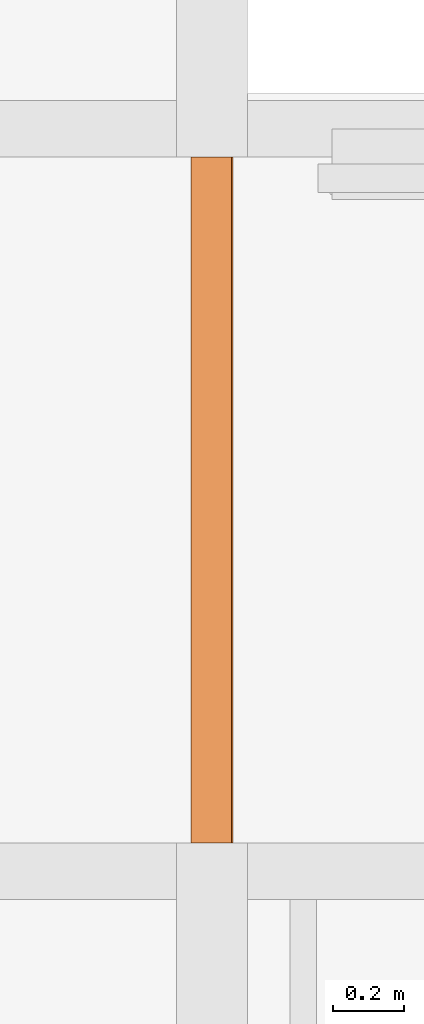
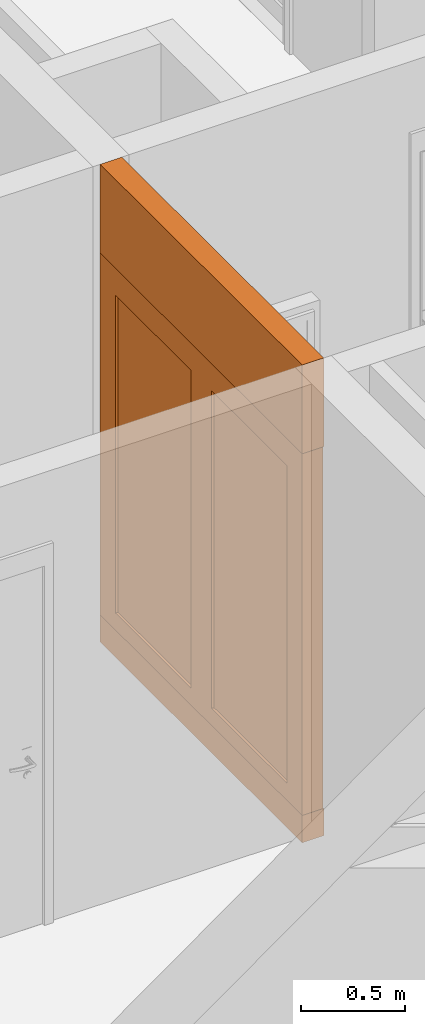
# One storey, part 21 of 66: 2 proxies, 1 opening.
"""IFC2X3 building model written with IfcOpenShell, lengths in millimetres."""

import ifcopenshell
import ifcopenshell.guid

model = None  # the IFC model being written
_history = None  # IfcOwnerHistory: only IFC2X3 demands one
_inside = {}  # id of a spatial element -> (the spatial element, [elements in it])
_under = {}  # id of a project, library or spatial element -> (it, [spatial elements below it])
_declared = {}  # id of a project -> (the project, [libraries it declares])
_typed = {}  # id of a type object -> (the type object, [elements of that type])
_made_of = {}  # id of a material, layer set ... -> (it, [elements and type objects made of it])


def new_model(schema):
    """Start an empty IFC model of exactly this schema.

    Asked for "IFC4X3", IfcOpenShell would pick the latest addendum, in which some entities
    have other attributes; the version numbers below select the first issue.
    IFC2X3 requires an IfcOwnerHistory on every rooted entity: one is made here for all.
    """
    global model, _history
    if schema == "IFC4X3":
        model = ifcopenshell.file(schema_version=(4, 3, 0, 0))
    else:
        model = ifcopenshell.file(schema=schema)
    _inside.clear()
    _under.clear()
    _declared.clear()
    _typed.clear()
    _made_of.clear()
    _history = None
    if model.schema == "IFC2X3":
        org = make("IfcOrganization", Name="unknown")
        user = make(
            "IfcPersonAndOrganization",
            ThePerson=make("IfcPerson", FamilyName="unknown"),
            TheOrganization=org,
        )
        app = make(
            "IfcApplication",
            ApplicationDeveloper=org,
            Version="unknown",
            ApplicationFullName="unknown",
            ApplicationIdentifier="unknown",
        )
        _history = make(
            "IfcOwnerHistory",
            OwningUser=user,
            OwningApplication=app,
            ChangeAction="ADDED",
            CreationDate=0,
        )
    return model


def make(cls, **values):
    """One entity of the class cls with the attributes given. An attribute that is None is left unset."""
    return model.create_entity(
        cls, **{name: value for name, value in values.items() if value is not None}
    )


def entity(cls, *values):
    """Any entity or typed value of the class cls, its attributes in the order of the schema. None: left unset."""
    e = model.create_entity(cls)
    for i, value in enumerate(values):
        if value is not None:
            e[i] = value
    return e


def rooted(cls, **values):
    """An entity with a GlobalId (a new one), such as an element, a storey or a relation."""
    return make(cls, GlobalId=ifcopenshell.guid.new(), OwnerHistory=_history, **values)


def si_unit(unit_type, name, prefix=None):
    """IfcSIUnit, for example si_unit("LENGTHUNIT", "METRE", prefix="MILLI")."""
    return make("IfcSIUnit", UnitType=unit_type, Prefix=prefix, Name=name)


def converted_unit(unit_type, name, factor, base, dimensions=None, offset=None):
    """IfcConversionBasedUnit, such as the inch: factor (a typed value) times the base unit."""
    return make(
        "IfcConversionBasedUnit"
        if offset is None
        else "IfcConversionBasedUnitWithOffset",
        ConversionOffset=offset,
        Dimensions=None
        if dimensions is None
        else entity("IfcDimensionalExponents", *dimensions),
        UnitType=unit_type,
        Name=name,
        ConversionFactor=make(
            "IfcMeasureWithUnit", ValueComponent=factor, UnitComponent=base
        ),
    )


def derived_unit(unit_type, elements):
    """IfcDerivedUnit: a product of units, each with its exponent."""
    return make(
        "IfcDerivedUnit",
        Elements=[
            make("IfcDerivedUnitElement", Unit=unit, Exponent=power)
            for unit, power in elements
        ],
        UnitType=unit_type,
    )


def money_unit(currency):
    """IfcMonetaryUnit."""
    return make("IfcMonetaryUnit", Currency=currency)


def assignment(units):
    """IfcUnitAssignment: the units of a project."""
    return None if units is None else make("IfcUnitAssignment", Units=units)


def point(xyz):
    """IfcCartesianPoint."""
    return None if xyz is None else make("IfcCartesianPoint", Coordinates=xyz)


def direction(xyz):
    """IfcDirection."""
    return None if xyz is None else make("IfcDirection", DirectionRatios=xyz)


def frame(location, z_axis=None, x_axis=None):
    """IfcAxis2Placement3D, a coordinate frame: its origin and axes. An axis left out is left unset."""
    return make(
        "IfcAxis2Placement3D",
        Location=point(location),
        Axis=direction(z_axis),
        RefDirection=direction(x_axis),
    )


def frame_2d(location, x_axis=None):
    """IfcAxis2Placement2D, a coordinate frame in the plane: its origin and x axis."""
    return make(
        "IfcAxis2Placement2D", Location=point(location), RefDirection=direction(x_axis)
    )


def origin_with_axes():
    """The frame at (0, 0, 0) with the z axis (0, 0, 1) and the x axis (1, 0, 0) written out."""
    return frame((0.0, 0.0, 0.0), z_axis=(0.0, 0.0, 1.0), x_axis=(1.0, 0.0, 0.0))


def origin_2d_with_axis():
    """The frame at (0, 0) in the plane with the x axis (1, 0) written out."""
    return frame_2d((0.0, 0.0), x_axis=(1.0, 0.0))


def place(relative_to, where):
    """IfcLocalPlacement: puts the frame where relative to a parent placement (None: the world)."""
    return make(
        "IfcLocalPlacement", PlacementRelTo=relative_to, RelativePlacement=where
    )


def context(
    kind, dimensions, precision=None, world=None, true_north=None, identifier=None
):
    """IfcGeometricRepresentationContext, for example the 3D "Model" context."""
    return make(
        "IfcGeometricRepresentationContext",
        ContextIdentifier=identifier,
        ContextType=kind,
        CoordinateSpaceDimension=dimensions,
        Precision=precision,
        WorldCoordinateSystem=world,
        TrueNorth=true_north,
    )


def subcontext(parent, identifier, kind, view, scale=None):
    """IfcGeometricRepresentationSubContext, for example "Body" below "Model"."""
    return make(
        "IfcGeometricRepresentationSubContext",
        ContextIdentifier=identifier,
        ContextType=kind,
        ParentContext=parent,
        TargetScale=scale,
        TargetView=view,
    )


def project(units=None, contexts=None):
    """IfcProject with its units and contexts."""
    return rooted(
        "IfcProject",
        Name="project",
        RepresentationContexts=contexts,
        UnitsInContext=assignment(units),
    )


def spatial(cls, under=None, at=None, **own):
    """A site, building, storey or space (cls), placed at a placement, below another one or the project."""
    s = rooted(cls, ObjectPlacement=at, **own)
    if under is not None:
        _under.setdefault(under.id(), (under, []))[1].append(s)
    return s


def profile(cls, at=None, kind="AREA", **sizes):
    """A parametric profile (cls). Its sizes go by their IFC names, for example OverallWidth=200.0."""
    return make(cls, ProfileType=kind, Position=at, **sizes)


def rectangle(**sizes):
    """IfcRectangleProfileDef."""
    return profile("IfcRectangleProfileDef", **sizes)


def extrude(swept, where, along, depth):
    """IfcExtrudedAreaSolid: the profile swept, set in the frame where, extruded along a direction by depth."""
    return make(
        "IfcExtrudedAreaSolid",
        SweptArea=swept,
        Position=where,
        ExtrudedDirection=direction(along),
        Depth=depth,
    )


def faces_of(points, faces, orient=None, outer=None):
    """IfcFace entities. A face is a list of loops; a loop is a list of indices into points, from 0.

    orient and outer hold one flag for each loop. By default every Orientation is true, the
    first loop of a face is its IfcFaceOuterBound and the others are IfcFaceBound.
    """
    made = []
    for i, loops in enumerate(faces):
        bounds = []
        for j, loop in enumerate(loops):
            is_outer = j == 0 if outer is None else outer[i][j]
            bounds.append(
                make(
                    "IfcFaceOuterBound" if is_outer else "IfcFaceBound",
                    Bound=make("IfcPolyLoop", Polygon=[points[k] for k in loop]),
                    Orientation=True if orient is None else orient[i][j],
                )
            )
        made.append(make("IfcFace", Bounds=bounds))
    return made


def open_shell(faces, orient=None, outer=None):
    """The faces of one IfcOpenShell. surface_model builds it on its shared points."""
    return ("IfcOpenShell", faces, orient, outer)


def faceted_brep(points, faces, orient=None, outer=None, voids=None):
    """IfcFacetedBrep: a solid bounded by flat faces; with voids (closed shells), ...WithVoids."""
    shared = [point(p) for p in points]
    hull = make("IfcClosedShell", CfsFaces=faces_of(shared, faces, orient, outer))
    if voids is None:
        return make("IfcFacetedBrep", Outer=hull)
    return make(
        "IfcFacetedBrepWithVoids",
        Outer=hull,
        Voids=[
            make(cls, CfsFaces=faces_of(shared, fs, o, b)) for cls, fs, o, b in voids
        ],
    )


def surface_model(cls, points, shells):
    """IfcFaceBasedSurfaceModel or IfcShellBasedSurfaceModel (cls): surfaces that need not close."""
    shared = [point(p) for p in points]
    made = [make(c, CfsFaces=faces_of(shared, fs, o, b)) for c, fs, o, b in shells]
    if cls == "IfcFaceBasedSurfaceModel":
        return make(cls, FbsmFaces=made)
    return make(cls, SbsmBoundary=made)


def shape(context_of_items, identifier, shape_type, items):
    """IfcShapeRepresentation: the items that make up one representation, for example the "Body"."""
    return make(
        "IfcShapeRepresentation",
        ContextOfItems=context_of_items,
        RepresentationIdentifier=identifier,
        RepresentationType=shape_type,
        Items=items,
    )


def source(mapping_origin, context_of_items, identifier, shape_type, items):
    """IfcRepresentationMap: a shape defined once, which mapped items show again and again."""
    return make(
        "IfcRepresentationMap",
        MappingOrigin=mapping_origin,
        MappedRepresentation=shape(context_of_items, identifier, shape_type, items),
    )


def transform(
    local_origin,
    x_axis=None,
    y_axis=None,
    z_axis=None,
    scale=None,
    scale2=None,
    scale3=None,
    uniform=True,
):
    """IfcCartesianTransformationOperator3D, or its non-uniform kind. x_axis, y_axis, z_axis: its Axis1, 2, 3."""
    if uniform:
        return make(
            "IfcCartesianTransformationOperator3D",
            Axis1=direction(x_axis),
            Axis2=direction(y_axis),
            LocalOrigin=point(local_origin),
            Scale=scale,
            Axis3=direction(z_axis),
        )
    return make(
        "IfcCartesianTransformationOperator3DnonUniform",
        Axis1=direction(x_axis),
        Axis2=direction(y_axis),
        LocalOrigin=point(local_origin),
        Scale=scale,
        Axis3=direction(z_axis),
        Scale2=scale2,
        Scale3=scale3,
    )


def mapped(mapping_source, mapping_target):
    """IfcMappedItem: shows the shape of a source again, moved by a transform."""
    return make(
        "IfcMappedItem", MappingSource=mapping_source, MappingTarget=mapping_target
    )


def material(Name=None, Category=None):
    """IfcMaterial."""
    return make("IfcMaterial", Name=Name, Category=Category)


def made_of(thing, what):
    """Note that an element or type object is made of a material, layer set ...; save() writes the relation."""
    if what is not None:
        _made_of.setdefault(what.id(), (what, []))[1].append(thing)
    return thing


def type_object(cls, material=None, **own):
    """A type object (cls), such as IfcWallType, which elements share."""
    return made_of(rooted(cls, **own), material)


def element(
    cls,
    number,
    at=None,
    inside=None,
    cuts=None,
    type_object=None,
    material=None,
    context=None,
    identifier="Body",
    shape_type=None,
    held_by="IfcProductDefinitionShape",
    body=None,
    shapes=None,
    **own,
):
    """One element of the class cls, such as IfcWall. Its Tag is "e" and its number.

    at: its placement. inside: the storey or other place that contains it. cuts: it is an
    opening in that element (IfcRelVoidsElement). A single representation is given by context,
    identifier, shape_type and body (its items); several are given by shapes. held_by: the class
    of the entity that holds the representations. save() writes the other relations.
    """
    e = rooted(cls, Tag="e%d" % number, ObjectPlacement=at, **own)
    if body is not None:
        shapes = [shape(context, identifier, shape_type, body)]
    if shapes is not None:
        e.Representation = make(held_by, Representations=shapes)
    if inside is not None:
        _inside.setdefault(inside.id(), (inside, []))[1].append(e)
    if cuts is not None:
        rooted(
            "IfcRelVoidsElement", RelatingBuildingElement=cuts, RelatedOpeningElement=e
        )
    if type_object is not None:
        _typed.setdefault(type_object.id(), (type_object, []))[1].append(e)
    return made_of(e, material)


def fill(opening, filler):
    """IfcRelFillsElement: the door or window that sits in an opening."""
    return rooted(
        "IfcRelFillsElement",
        RelatingOpeningElement=opening,
        RelatedBuildingElement=filler,
    )


def aggregate(whole, parts):
    """IfcRelAggregates: a whole, such as a stair, and the parts it consists of."""
    return rooted("IfcRelAggregates", RelatingObject=whole, RelatedObjects=parts)


def save(model, path):
    """Write the relations noted so far, then the file.

    IfcRelAggregates (storeys below a building ...), IfcRelContainedInSpatialStructure (elements
    in a storey), IfcRelDefinesByType, IfcRelAssociatesMaterial and IfcRelDeclares: one each for
    every whole, place, type object, material and project.
    """
    for whole, parts in _under.values():
        aggregate(whole, parts)
    for where, things in _inside.values():
        rooted(
            "IfcRelContainedInSpatialStructure",
            RelatedElements=things,
            RelatingStructure=where,
        )
    for kind, things in _typed.values():
        rooted("IfcRelDefinesByType", RelatedObjects=things, RelatingType=kind)
    for what, things in _made_of.values():
        rooted("IfcRelAssociatesMaterial", RelatedObjects=things, RelatingMaterial=what)
    for by, libraries in _declared.values():
        rooted("IfcRelDeclares", RelatingContext=by, RelatedDefinitions=libraries)
    model.write(path)


model = new_model("IFC2X3")

# Units and contexts
model_context = context("Model", 3, precision=0.01, world=origin_with_axes(), true_north=direction((0.34421633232, 0.938890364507)))
body_context = subcontext(model_context, "Body", "Model", "MODEL_VIEW")
ifc_project = project(units=[si_unit("LENGTHUNIT", "METRE", prefix="MILLI"), si_unit("AREAUNIT", "SQUARE_METRE"), si_unit("VOLUMEUNIT", "CUBIC_METRE"), converted_unit("PLANEANGLEUNIT", "DEGREE", entity("IfcPlaneAngleMeasure", 0.0174532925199), si_unit("PLANEANGLEUNIT", "RADIAN"), dimensions=[0, 0, 0, 0, 0, 0, 0]), si_unit("SOLIDANGLEUNIT", "STERADIAN"), money_unit("USD"), converted_unit("TIMEUNIT", "Year", entity("IfcTimeMeasure", 31556926.0), si_unit("TIMEUNIT", "SECOND"), dimensions=[0, 0, 1, 0, 0, 0, 0]), si_unit("MASSUNIT", "GRAM", prefix="KILO"), si_unit("THERMODYNAMICTEMPERATUREUNIT", "DEGREE_CELSIUS"), si_unit("LUMINOUSINTENSITYUNIT", "LUMEN"), si_unit("ENERGYUNIT", "JOULE", prefix="MEGA"), derived_unit("THERMALCONDUCTANCEUNIT", [(si_unit("POWERUNIT", "WATT"), 1), (si_unit("LENGTHUNIT", "METRE"), -1), (si_unit("THERMODYNAMICTEMPERATUREUNIT", "KELVIN"), -1)]), derived_unit("SPECIFICHEATCAPACITYUNIT", [(si_unit("ENERGYUNIT", "JOULE"), 1), (si_unit("MASSUNIT", "GRAM", prefix="KILO"), -1), (si_unit("THERMODYNAMICTEMPERATUREUNIT", "KELVIN"), -1)]), derived_unit("MASSDENSITYUNIT", [(si_unit("MASSUNIT", "GRAM", prefix="KILO"), 1), (si_unit("VOLUMEUNIT", "CUBIC_METRE"), -1)])], contexts=[model_context])

# Site, building, storey
site_placement = place(None, origin_with_axes())
site = spatial("IfcSite", under=ifc_project, at=site_placement, Name="USTRONIE MORSKIE", CompositionType="ELEMENT")
building_placement = place(site_placement, origin_with_axes())
building = spatial("IfcBuilding", under=site, at=building_placement, Name="Budynek", CompositionType="ELEMENT")
storey_placement = place(building_placement, frame((0.0, 0.0, 10000.0), z_axis=(0.0, 0.0, 1.0), x_axis=(1.0, 0.0, 0.0)))
storey = spatial("IfcBuildingStorey", under=building, at=storey_placement, Name="PIĘTRO 3", CompositionType="ELEMENT", Elevation=10000.0)

# Proxies, opening
ifc_material = material(Name="Bloczki silikatowe")
building_element_proxy_type_1 = type_object("IfcBuildingElementProxyType", Name="Bloczki silikatowe 120", PredefinedType="NOTDEFINED")
proxy_1_placement = place(storey_placement, frame((396317.920919, 734751.202821, -160.0), z_axis=(0.0, 0.0, 1.0), x_axis=(-4.57271876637e-06, 0.99999999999, 0.0)))
proxy_1 = element("IfcBuildingElementProxy", 1, at=proxy_1_placement, inside=storey, type_object=building_element_proxy_type_1, material=ifc_material, Name="SW-04", context=body_context, shape_type="Brep", body=[
    faceted_brep([(79.9997070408, -60.0, 0.0), (2019.99594089, -60.0, 0.0), (2019.99594089, -60.0, 2800.0), (79.9997070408, -60.0, 2800.0), (80.0002929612, 59.9999999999, 0.0), (2019.99648962, 59.9999999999, 0.0), (2019.99648962, 59.9999999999, 2800.0), (80.0002929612, 59.9999999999, 2800.0)], [[[0, 1, 2, 3]], [[4, 5, 1, 0]], [[5, 6, 2, 1]], [[3, 2, 6, 7]], [[4, 0, 3, 7]], [[7, 6, 5, 4]]]),
])
opening_placement = place(proxy_1_placement, frame((1049.99782397, 0.0, 160.0), z_axis=(0.0, 0.0, 1.0), x_axis=(1.0, 0.0, 0.0)))
opening = element("IfcOpeningElement", 2, at=opening_placement, cuts=proxy_1, Name="Dw.6s", context=body_context, shape_type="SweptSolid", body=[
    extrude(rectangle(XDim=1940.0, YDim=2120.0, at=origin_2d_with_axis()), frame((0.0, -120.0, 1060.0), z_axis=(0.0, -1.0, 0.0), x_axis=(-1.0, 0.0, 0.0)), (0.0, 0.0, -1.0), 360.0),
])
building_element_proxy_type_2 = type_object("IfcBuildingElementProxyType", Name="Drzwi podwójne 23", PredefinedType="NOTDEFINED")
shared_shape = source(origin_with_axes(), body_context, "Body", "SurfaceModel", [
    faceted_brep([(910.0, -40.0, 0.0), (910.0, -115.0, 0.0), (910.0, -115.0, 2050.0), (910.0, -40.0, 2050.0), (922.0, -40.0, 0.0), (922.0, 0.0, 0.0), (970.0, 0.0, 0.0), (970.0, -115.0, 0.0), (970.0, -115.0, 2050.0), (922.0, -40.0, 2050.0), (970.0, 0.0, 2050.0), (922.0, 0.0, 2050.0)], [[[0, 1, 2, 3]], [[4, 5, 6, 7, 1, 0]], [[1, 7, 8, 2]], [[9, 3, 2, 8, 10, 11]], [[9, 4, 0, 3]], [[11, 5, 4, 9]], [[11, 10, 6, 5]], [[6, 10, 8, 7]]]),
    faceted_brep([(-922.0, -40.0, 2050.0), (-922.0, 0.0, 2050.0), (-970.0, 0.0, 2050.0), (-970.0, -115.0, 2050.0), (-910.0, -115.0, 2050.0), (-910.0, -40.0, 2050.0), (-922.0, -40.0, 0.0), (-922.0, 0.0, 0.0), (-970.0, 0.0, 0.0), (-970.0, -115.0, 0.0), (-910.0, -115.0, 0.0), (-910.0, -40.0, 0.0)], [[[0, 1, 2, 3, 4, 5]], [[0, 6, 7, 1]], [[7, 8, 2, 1]], [[2, 8, 9, 3]], [[3, 9, 10, 4]], [[5, 4, 10, 11]], [[5, 11, 6, 0]], [[6, 11, 10, 9, 8, 7]]]),
    faceted_brep([(922.0, 0.0, 2062.0), (-922.0, 0.0, 2062.0), (-922.0, 0.0, 2050.0), (-970.0, 0.0, 2050.0), (-970.0, 0.0, 2120.0), (970.0, 0.0, 2120.0), (970.0, 0.0, 2050.0), (922.0, 0.0, 2050.0), (922.0, -40.0, 2062.0), (-922.0, -40.0, 2062.0), (-922.0, -40.0, 2050.0), (-910.0, -40.0, 2050.0), (-910.0, -115.0, 2050.0), (-970.0, -115.0, 2050.0), (-970.0, -115.0, 2120.0), (970.0, -115.0, 2120.0), (970.0, -115.0, 2050.0), (922.0, -40.0, 2050.0), (910.0, -115.0, 2050.0), (910.0, -40.0, 2050.0)], [[[0, 1, 2, 3, 4, 5, 6, 7]], [[0, 8, 9, 1]], [[1, 9, 10, 2]], [[10, 11, 12, 13, 3, 2]], [[4, 3, 13, 14]], [[5, 4, 14, 15]], [[6, 5, 15, 16]], [[17, 7, 6, 16, 18, 19]], [[7, 17, 8, 0]], [[10, 9, 8, 17, 19, 11]], [[19, 18, 12, 11]], [[12, 18, 16, 15, 14, 13]]]),
    faceted_brep([(-922.0, 0.0, 100.0), (-822.0, 0.0, 100.0), (-822.0, -40.0, 100.0), (-922.0, -40.0, 100.0), (-922.0, 0.0, 1962.0), (-822.0, 0.0, 1962.0), (-822.0, -40.0, 1962.0), (-922.0, -40.0, 1962.0)], [[[0, 1, 2, 3]], [[0, 4, 5, 1]], [[1, 5, 6, 2]], [[3, 2, 6, 7]], [[4, 0, 3, 7]], [[5, 4, 7, 6]]]),
    faceted_brep([(0.0, 0.0, 100.0), (0.0, 0.0, 1962.0), (0.0, -40.0, 1962.0), (0.0, -40.0, 100.0), (-100.0, 0.0, 100.0), (-100.0, 0.0, 1962.0), (-100.0, -40.0, 1962.0), (-100.0, -40.0, 100.0)], [[[0, 1, 2, 3]], [[0, 4, 5, 1]], [[1, 5, 6, 2]], [[3, 2, 6, 7]], [[4, 0, 3, 7]], [[5, 4, 7, 6]]]),
    faceted_brep([(-922.0, 0.0, 0.0), (0.0, 0.0, 0.0), (0.0, -40.0, 0.0), (-922.0, -40.0, 0.0), (-922.0, 0.0, 100.0), (-822.0, 0.0, 100.0), (-100.0, 0.0, 100.0), (0.0, 0.0, 100.0), (0.0, -40.0, 100.0), (-100.0, -40.0, 100.0), (-822.0, -40.0, 100.0), (-922.0, -40.0, 100.0)], [[[0, 1, 2, 3]], [[0, 4, 5, 6, 7, 1]], [[1, 7, 8, 2]], [[3, 2, 8, 9, 10, 11]], [[4, 0, 3, 11]], [[5, 4, 11, 10]], [[6, 5, 10, 9]], [[7, 6, 9, 8]]]),
    faceted_brep([(-922.0, 0.0, 2062.0), (-922.0, 0.0, 1962.0), (-922.0, -40.0, 1962.0), (-922.0, -40.0, 2062.0), (0.0, 0.0, 2062.0), (0.0, 0.0, 1962.0), (-100.0, 0.0, 1962.0), (-822.0, 0.0, 1962.0), (-822.0, -40.0, 1962.0), (-100.0, -40.0, 1962.0), (0.0, -40.0, 1962.0), (0.0, -40.0, 2062.0)], [[[0, 1, 2, 3]], [[0, 4, 5, 6, 7, 1]], [[1, 7, 8, 2]], [[3, 2, 8, 9, 10, 11]], [[4, 0, 3, 11]], [[5, 4, 11, 10]], [[6, 5, 10, 9]], [[7, 6, 9, 8]]]),
    surface_model("IfcShellBasedSurfaceModel", [(-822.0, -14.0, 100.0), (-822.0, -14.0, 1962.0), (-100.0, -14.0, 1962.0), (-100.0, -14.0, 100.0)], [open_shell([[[0, 1, 2, 3]]])]),
    surface_model("IfcShellBasedSurfaceModel", [(-822.0, -26.0, 100.0), (-100.0, -26.0, 100.0), (-100.0, -26.0, 1962.0), (-822.0, -26.0, 1962.0)], [open_shell([[[0, 1, 2, 3]]])]),
    faceted_brep([(922.0, 0.0, 100.0), (922.0, -40.0, 100.0), (822.0, -40.0, 100.0), (822.0, 0.0, 100.0), (922.0, 0.0, 1962.0), (922.0, -40.0, 1962.0), (822.0, -40.0, 1962.0), (822.0, 0.0, 1962.0)], [[[0, 1, 2, 3]], [[4, 5, 1, 0]], [[1, 5, 6, 2]], [[3, 2, 6, 7]], [[0, 3, 7, 4]], [[7, 6, 5, 4]]]),
    faceted_brep([(0.0, 0.0, 100.0), (0.0, -40.0, 100.0), (0.0, -40.0, 1962.0), (0.0, 0.0, 1962.0), (100.0, 0.0, 100.0), (100.0, -40.0, 100.0), (100.0, -40.0, 1962.0), (100.0, 0.0, 1962.0)], [[[0, 1, 2, 3]], [[4, 5, 1, 0]], [[1, 5, 6, 2]], [[3, 2, 6, 7]], [[0, 3, 7, 4]], [[7, 6, 5, 4]]]),
    faceted_brep([(922.0, 0.0, 0.0), (922.0, -40.0, 0.0), (0.0, -40.0, 0.0), (0.0, 0.0, 0.0), (922.0, 0.0, 100.0), (922.0, -40.0, 100.0), (822.0, -40.0, 100.0), (100.0, -40.0, 100.0), (0.0, -40.0, 100.0), (0.0, 0.0, 100.0), (100.0, 0.0, 100.0), (822.0, 0.0, 100.0)], [[[0, 1, 2, 3]], [[4, 5, 1, 0]], [[1, 5, 6, 7, 8, 2]], [[3, 2, 8, 9]], [[0, 3, 9, 10, 11, 4]], [[11, 6, 5, 4]], [[10, 7, 6, 11]], [[9, 8, 7, 10]]]),
    faceted_brep([(922.0, 0.0, 2062.0), (922.0, -40.0, 2062.0), (922.0, -40.0, 1962.0), (922.0, 0.0, 1962.0), (0.0, 0.0, 2062.0), (0.0, -40.0, 2062.0), (0.0, -40.0, 1962.0), (100.0, -40.0, 1962.0), (822.0, -40.0, 1962.0), (822.0, 0.0, 1962.0), (100.0, 0.0, 1962.0), (0.0, 0.0, 1962.0)], [[[0, 1, 2, 3]], [[4, 5, 1, 0]], [[1, 5, 6, 7, 8, 2]], [[3, 2, 8, 9]], [[0, 3, 9, 10, 11, 4]], [[11, 6, 5, 4]], [[10, 7, 6, 11]], [[9, 8, 7, 10]]]),
    surface_model("IfcShellBasedSurfaceModel", [(822.0, -14.0, 100.0), (100.0, -14.0, 100.0), (100.0, -14.0, 1962.0), (822.0, -14.0, 1962.0)], [open_shell([[[0, 1, 2, 3]]])]),
    surface_model("IfcShellBasedSurfaceModel", [(822.0, -26.0, 100.0), (822.0, -26.0, 1962.0), (100.0, -26.0, 1962.0), (100.0, -26.0, 100.0)], [open_shell([[[0, 1, 2, 3]]])]),
])
proxy_2_placement = place(opening_placement, frame((-910.0, -1.13686837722e-10, 0.0), z_axis=(0.0, 0.0, 1.0), x_axis=(1.0, 0.0, 0.0)))
proxy_2 = element("IfcBuildingElementProxy", 3, at=proxy_2_placement, inside=storey, type_object=building_element_proxy_type_2, Name="Dw.6s", context=body_context, shape_type="MappedRepresentation", body=[
    mapped(shared_shape, transform((910.0, 60.0, 0.0))),
])
fill(opening, proxy_2)

save(model, "model.ifc")
